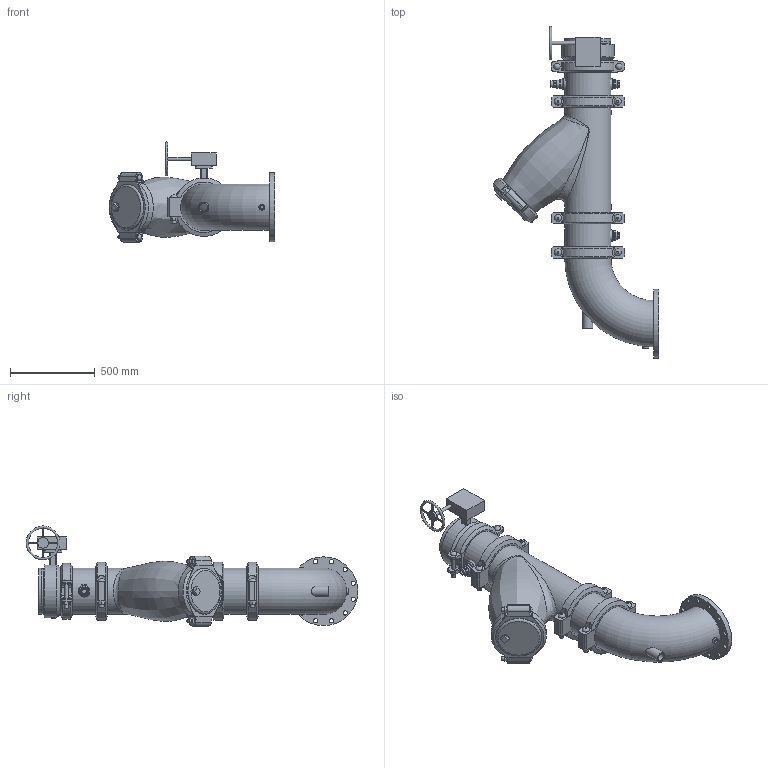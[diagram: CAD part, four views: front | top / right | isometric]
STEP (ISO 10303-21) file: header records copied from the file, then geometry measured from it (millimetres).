
FILE_DESCRIPTION(/* description */ ('VIC SVI PUMP DROP HORZ S/382 (OGSxFLG) (S/924-0.75)','CAx-IF Rec.Pracs.---Representation and Presentation of Product Manufacturing Information (PMI)---4.0---2014-10-13'),/* implementation_level */ '2;1');
FILE_NAME(/* name */ 'C:\Users\Vjadhav\AppData\Roaming\Autodesk\ApplicationPlugins\Victaulic.Temp\A562\Victaulic_IPS_Horizontal SVI_CL 150_Series 382 (OGSxFLG)_924 (0.75)_10.0x10.0 (250x250).stp',/* time_stamp */ '2022-02-28T20:00:40+06:00',/* author */ ('kkamble'),/* organization */ ('Victaulic'),/* preprocessor_version */ 'ST-DEVELOPER v17.2',/* originating_system */ 'Autodesk Inventor 2019',/* authorisation */ '');
FILE_SCHEMA (('AP242_MANAGED_MODEL_BASED_3D_ENGINEERING_MIM_LF { 1 0 10303 442 1 1 4 }'));
Length unit declared in the file: inch
Products named in the file (13): 382_924 (0.75)-10.0x10.0; PIPE-10.0; 107N-10.0; 732-10.0; 732-10.0_1; 07-10.0; 732-10.0_2; 077-10.0; PIPE-10.3; 761-10.0; 924-10.0x0.75; 923-10.0x0.75; 100F-10.0
Assembly tree (15 placements, depth 3):
  382_924 (0.75)-10.0x10.0
    PIPE-10.0
    107N-10.0
    732-10.0
      732-10.0_1
      07-10.0
      732-10.0_2
    077-10.0  x3
    PIPE-10.3
    761-10.0
    924-10.0x0.75
    923-10.0x0.75  x2
    100F-10.0
Bounding box: 977.89 x 1961.18 x 591.16 mm (x, y, z)
Volume: 38902747.9 mm3; surface area: 6020333.3 mm2
Topology: 14 solids, 23 shells, 748 faces, 1871 edges, 1262 vertices
Faces by surface type: plane 416, cylinder 257, bspline 32, cone 27, torus 12, sphere 4
Full cylindrical faces by diameter (mm): 10.922 x4, 12.7 x1, 20.066 x1, 20.93 x1, 21.336 x2, 22.225 x8, 22.86 x1, 25.4 x24, 26.67 x5, 27.432 x6, 34.29 x1, 37.694 x4, 38.608 x1, 45.974 x6, 48.26 x1, 50.8 x1, 55.626 x3, 60.96 x1, 63.079 x1, 70.104 x1, 76.2 x2, 241.3 x1, 254.508 x6, 254.762 x1, 260.35 x2, 264.16 x3, 268.275 x11, 273.05 x26, 311.15 x1, 406.4 x1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
Entity records: 23460 total; most frequent: CARTESIAN_POINT 8147, DIRECTION 3092, ORIENTED_EDGE 2870, EDGE_CURVE 1435, AXIS2_PLACEMENT_3D 1190, VERTEX_POINT 971, LINE 712, VECTOR 712
